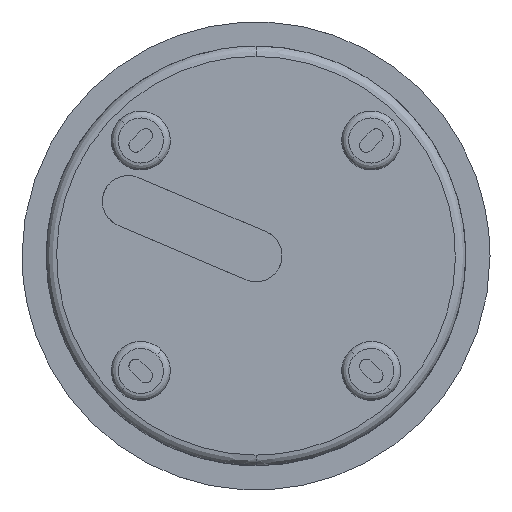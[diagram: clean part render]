
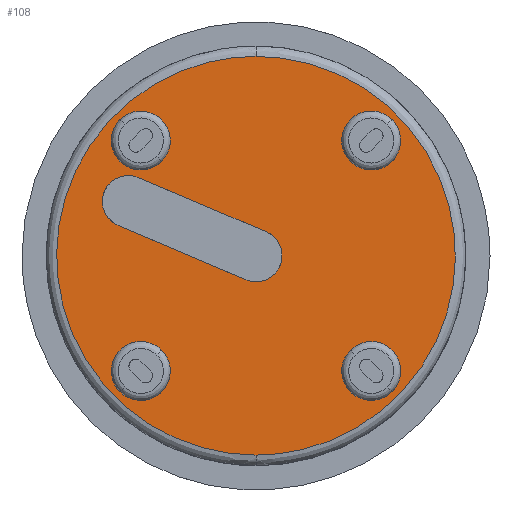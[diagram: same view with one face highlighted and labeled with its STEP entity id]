
A CAD part, top view. The second image highlights one B-rep face of the part: STEP entity #108.
In plain terms, the highlighted planar face has unit normal (0, 0, 1) as drawn and (0, 1, 0) by its records, which use the part's own axes.
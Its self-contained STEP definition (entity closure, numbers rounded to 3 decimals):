
#35=FACE_BOUND('',#484,.T.);
#36=FACE_BOUND('',#485,.T.);
#37=FACE_BOUND('',#486,.T.);
#38=FACE_BOUND('',#487,.T.);
#39=FACE_BOUND('',#488,.T.);
#108=ADVANCED_FACE('',(#293,#35,#36,#37,#38,#39),#2769,.T.);
#293=FACE_OUTER_BOUND('',#483,.T.);
#483=EDGE_LOOP('',(#964,#965));
#484=EDGE_LOOP('',(#966,#967));
#485=EDGE_LOOP('',(#968,#969));
#486=EDGE_LOOP('',(#970,#971));
#487=EDGE_LOOP('',(#972,#973));
#488=EDGE_LOOP('',(#974,#975,#976,#977));
#964=ORIENTED_EDGE('',*,*,#1714,.F.);
#965=ORIENTED_EDGE('',*,*,#1715,.F.);
#966=ORIENTED_EDGE('',*,*,#1723,.T.);
#967=ORIENTED_EDGE('',*,*,#1718,.T.);
#968=ORIENTED_EDGE('',*,*,#1781,.T.);
#969=ORIENTED_EDGE('',*,*,#1778,.T.);
#970=ORIENTED_EDGE('',*,*,#1763,.T.);
#971=ORIENTED_EDGE('',*,*,#1760,.T.);
#972=ORIENTED_EDGE('',*,*,#1745,.T.);
#973=ORIENTED_EDGE('',*,*,#1742,.T.);
#974=ORIENTED_EDGE('',*,*,#1792,.T.);
#975=ORIENTED_EDGE('',*,*,#1795,.T.);
#976=ORIENTED_EDGE('',*,*,#1798,.T.);
#977=ORIENTED_EDGE('',*,*,#1788,.T.);
#1714=EDGE_CURVE('',#2588,#2589,#2091,.T.);
#1715=EDGE_CURVE('',#2589,#2588,#2092,.T.);
#1718=EDGE_CURVE('',#2590,#2591,#2095,.T.);
#1723=EDGE_CURVE('',#2591,#2590,#2098,.T.);
#1742=EDGE_CURVE('',#2596,#2597,#2107,.T.);
#1745=EDGE_CURVE('',#2597,#2596,#2110,.T.);
#1760=EDGE_CURVE('',#2594,#2595,#2117,.T.);
#1763=EDGE_CURVE('',#2595,#2594,#2120,.T.);
#1778=EDGE_CURVE('',#2592,#2593,#2127,.T.);
#1781=EDGE_CURVE('',#2593,#2592,#2130,.T.);
#1788=EDGE_CURVE('',#2598,#2599,#2133,.T.);
#1792=EDGE_CURVE('',#2599,#2601,#2337,.T.);
#1795=EDGE_CURVE('',#2601,#2600,#2135,.T.);
#1798=EDGE_CURVE('',#2600,#2598,#2341,.T.);
#2091=(
BOUNDED_CURVE()
B_SPLINE_CURVE(2,(#9662,#9663,#9664,#9665,#9666),.UNSPECIFIED.,.F.,.F.)
B_SPLINE_CURVE_WITH_KNOTS((3,2,3),(0.,90.321,180.642),
 .UNSPECIFIED.)
CURVE()
GEOMETRIC_REPRESENTATION_ITEM()
RATIONAL_B_SPLINE_CURVE((1.,0.707,1.,0.707,1.))
REPRESENTATION_ITEM('')
);
#2092=(
BOUNDED_CURVE()
B_SPLINE_CURVE(2,(#9667,#9668,#9669,#9670,#9671),.UNSPECIFIED.,.F.,.F.)
B_SPLINE_CURVE_WITH_KNOTS((3,2,3),(-180.642,-90.321,
0.),.UNSPECIFIED.)
CURVE()
GEOMETRIC_REPRESENTATION_ITEM()
RATIONAL_B_SPLINE_CURVE((1.,0.707,1.,0.707,1.))
REPRESENTATION_ITEM('')
);
#2095=(
BOUNDED_CURVE()
B_SPLINE_CURVE(2,(#9680,#9681,#9682,#9683,#9684),.UNSPECIFIED.,.F.,.F.)
B_SPLINE_CURVE_WITH_KNOTS((3,2,3),(-20.628,-10.418,-0.208),
 .UNSPECIFIED.)
CURVE()
GEOMETRIC_REPRESENTATION_ITEM()
RATIONAL_B_SPLINE_CURVE((1.,0.707,1.,0.707,1.))
REPRESENTATION_ITEM('')
);
#2098=(
BOUNDED_CURVE()
B_SPLINE_CURVE(2,(#9697,#9698,#9699,#9700,#9701),.UNSPECIFIED.,.F.,.F.)
B_SPLINE_CURVE_WITH_KNOTS((3,2,3),(-20.628,-10.418,-0.208),
 .UNSPECIFIED.)
CURVE()
GEOMETRIC_REPRESENTATION_ITEM()
RATIONAL_B_SPLINE_CURVE((1.,0.707,1.,0.707,1.))
REPRESENTATION_ITEM('')
);
#2107=(
BOUNDED_CURVE()
B_SPLINE_CURVE(2,(#9760,#9761,#9762,#9763,#9764),.UNSPECIFIED.,.F.,.F.)
B_SPLINE_CURVE_WITH_KNOTS((3,2,3),(-20.628,-10.418,-0.208),
 .UNSPECIFIED.)
CURVE()
GEOMETRIC_REPRESENTATION_ITEM()
RATIONAL_B_SPLINE_CURVE((1.,0.707,1.,0.707,1.))
REPRESENTATION_ITEM('')
);
#2110=(
BOUNDED_CURVE()
B_SPLINE_CURVE(2,(#9773,#9774,#9775,#9776,#9777),.UNSPECIFIED.,.F.,.F.)
B_SPLINE_CURVE_WITH_KNOTS((3,2,3),(-20.628,-10.418,-0.208),
 .UNSPECIFIED.)
CURVE()
GEOMETRIC_REPRESENTATION_ITEM()
RATIONAL_B_SPLINE_CURVE((1.,0.707,1.,0.707,1.))
REPRESENTATION_ITEM('')
);
#2117=(
BOUNDED_CURVE()
B_SPLINE_CURVE(2,(#9822,#9823,#9824,#9825,#9826),.UNSPECIFIED.,.F.,.F.)
B_SPLINE_CURVE_WITH_KNOTS((3,2,3),(-20.628,-10.418,-0.208),
 .UNSPECIFIED.)
CURVE()
GEOMETRIC_REPRESENTATION_ITEM()
RATIONAL_B_SPLINE_CURVE((1.,0.707,1.,0.707,1.))
REPRESENTATION_ITEM('')
);
#2120=(
BOUNDED_CURVE()
B_SPLINE_CURVE(2,(#9835,#9836,#9837,#9838,#9839),.UNSPECIFIED.,.F.,.F.)
B_SPLINE_CURVE_WITH_KNOTS((3,2,3),(-20.628,-10.418,-0.208),
 .UNSPECIFIED.)
CURVE()
GEOMETRIC_REPRESENTATION_ITEM()
RATIONAL_B_SPLINE_CURVE((1.,0.707,1.,0.707,1.))
REPRESENTATION_ITEM('')
);
#2127=(
BOUNDED_CURVE()
B_SPLINE_CURVE(2,(#9884,#9885,#9886,#9887,#9888),.UNSPECIFIED.,.F.,.F.)
B_SPLINE_CURVE_WITH_KNOTS((3,2,3),(-20.628,-10.418,-0.208),
 .UNSPECIFIED.)
CURVE()
GEOMETRIC_REPRESENTATION_ITEM()
RATIONAL_B_SPLINE_CURVE((1.,0.707,1.,0.707,1.))
REPRESENTATION_ITEM('')
);
#2130=(
BOUNDED_CURVE()
B_SPLINE_CURVE(2,(#9897,#9898,#9899,#9900,#9901),.UNSPECIFIED.,.F.,.F.)
B_SPLINE_CURVE_WITH_KNOTS((3,2,3),(-20.628,-10.418,-0.208),
 .UNSPECIFIED.)
CURVE()
GEOMETRIC_REPRESENTATION_ITEM()
RATIONAL_B_SPLINE_CURVE((1.,0.707,1.,0.707,1.))
REPRESENTATION_ITEM('')
);
#2133=(
BOUNDED_CURVE()
B_SPLINE_CURVE(2,(#9920,#9921,#9922,#9923,#9924),.UNSPECIFIED.,.F.,.F.)
B_SPLINE_CURVE_WITH_KNOTS((3,2,3),(-23.562,-11.781,
0.),.UNSPECIFIED.)
CURVE()
GEOMETRIC_REPRESENTATION_ITEM()
RATIONAL_B_SPLINE_CURVE((1.,0.707,1.,0.707,1.))
REPRESENTATION_ITEM('')
);
#2135=(
BOUNDED_CURVE()
B_SPLINE_CURVE(2,(#9940,#9941,#9942,#9943,#9944),.UNSPECIFIED.,.F.,.F.)
B_SPLINE_CURVE_WITH_KNOTS((3,2,3),(-23.562,-11.781,
0.),.UNSPECIFIED.)
CURVE()
GEOMETRIC_REPRESENTATION_ITEM()
RATIONAL_B_SPLINE_CURVE((1.,0.707,1.,0.707,1.))
REPRESENTATION_ITEM('')
);
#2337=B_SPLINE_CURVE_WITH_KNOTS('',1,(#9934,#9935),.UNSPECIFIED.,.F.,.F.,
(2,2),(-40.,0.),.UNSPECIFIED.);
#2341=B_SPLINE_CURVE_WITH_KNOTS('',1,(#9952,#9953),.UNSPECIFIED.,.F.,.F.,
(2,2),(-40.,0.),.UNSPECIFIED.);
#2588=VERTEX_POINT('',#8598);
#2589=VERTEX_POINT('',#8599);
#2590=VERTEX_POINT('',#8600);
#2591=VERTEX_POINT('',#8601);
#2592=VERTEX_POINT('',#8602);
#2593=VERTEX_POINT('',#8603);
#2594=VERTEX_POINT('',#8604);
#2595=VERTEX_POINT('',#8605);
#2596=VERTEX_POINT('',#8606);
#2597=VERTEX_POINT('',#8607);
#2598=VERTEX_POINT('',#8608);
#2599=VERTEX_POINT('',#8609);
#2600=VERTEX_POINT('',#8610);
#2601=VERTEX_POINT('',#8611);
#2769=PLANE('',#3208);
#3208=AXIS2_PLACEMENT_3D('',#5075,#3267,$);
#3267=DIRECTION('',(0.,1.,0.));
#5075=CARTESIAN_POINT('',(69.023,0.,69.023));
#8598=CARTESIAN_POINT('',(0.,0.,-57.5));
#8599=CARTESIAN_POINT('',(0.,0.,57.5));
#8600=CARTESIAN_POINT('',(-27.224,0.,-27.224));
#8601=CARTESIAN_POINT('',(-39.244,0.,-39.244));
#8602=CARTESIAN_POINT('',(-27.224,0.,27.224));
#8603=CARTESIAN_POINT('',(-39.244,0.,39.244));
#8604=CARTESIAN_POINT('',(27.224,0.,27.224));
#8605=CARTESIAN_POINT('',(39.244,0.,39.244));
#8606=CARTESIAN_POINT('',(27.224,0.,-27.224));
#8607=CARTESIAN_POINT('',(39.244,0.,-39.244));
#8608=CARTESIAN_POINT('',(2.93,0.,-6.904));
#8609=CARTESIAN_POINT('',(-2.93,0.,6.904));
#8610=CARTESIAN_POINT('',(-33.89,0.,-22.533));
#8611=CARTESIAN_POINT('',(-39.751,0.,-8.725));
#9662=CARTESIAN_POINT('',(0.,0.,-57.5));
#9663=CARTESIAN_POINT('',(57.5,0.,-57.5));
#9664=CARTESIAN_POINT('',(57.5,0.,0.));
#9665=CARTESIAN_POINT('',(57.5,0.,57.5));
#9666=CARTESIAN_POINT('',(0.,0.,57.5));
#9667=CARTESIAN_POINT('',(0.,0.,57.5));
#9668=CARTESIAN_POINT('',(-57.5,0.,57.5));
#9669=CARTESIAN_POINT('',(-57.5,0.,0.));
#9670=CARTESIAN_POINT('',(-57.5,0.,-57.5));
#9671=CARTESIAN_POINT('',(0.,0.,-57.5));
#9680=CARTESIAN_POINT('',(-27.224,0.,-27.224));
#9681=CARTESIAN_POINT('',(-33.234,0.,-21.213));
#9682=CARTESIAN_POINT('',(-39.244,0.,-27.224));
#9683=CARTESIAN_POINT('',(-45.255,0.,-33.234));
#9684=CARTESIAN_POINT('',(-39.244,0.,-39.244));
#9697=CARTESIAN_POINT('',(-39.244,0.,-39.244));
#9698=CARTESIAN_POINT('',(-33.234,0.,-45.255));
#9699=CARTESIAN_POINT('',(-27.224,0.,-39.244));
#9700=CARTESIAN_POINT('',(-21.213,0.,-33.234));
#9701=CARTESIAN_POINT('',(-27.224,0.,-27.224));
#9760=CARTESIAN_POINT('',(27.224,0.,-27.224));
#9761=CARTESIAN_POINT('',(21.213,0.,-33.234));
#9762=CARTESIAN_POINT('',(27.224,0.,-39.244));
#9763=CARTESIAN_POINT('',(33.234,0.,-45.255));
#9764=CARTESIAN_POINT('',(39.244,0.,-39.244));
#9773=CARTESIAN_POINT('',(39.244,0.,-39.244));
#9774=CARTESIAN_POINT('',(45.255,0.,-33.234));
#9775=CARTESIAN_POINT('',(39.244,0.,-27.224));
#9776=CARTESIAN_POINT('',(33.234,0.,-21.213));
#9777=CARTESIAN_POINT('',(27.224,0.,-27.224));
#9822=CARTESIAN_POINT('',(27.224,0.,27.224));
#9823=CARTESIAN_POINT('',(33.234,0.,21.213));
#9824=CARTESIAN_POINT('',(39.244,0.,27.224));
#9825=CARTESIAN_POINT('',(45.255,0.,33.234));
#9826=CARTESIAN_POINT('',(39.244,0.,39.244));
#9835=CARTESIAN_POINT('',(39.244,0.,39.244));
#9836=CARTESIAN_POINT('',(33.234,0.,45.255));
#9837=CARTESIAN_POINT('',(27.224,0.,39.244));
#9838=CARTESIAN_POINT('',(21.213,0.,33.234));
#9839=CARTESIAN_POINT('',(27.224,0.,27.224));
#9884=CARTESIAN_POINT('',(-27.224,0.,27.224));
#9885=CARTESIAN_POINT('',(-21.213,0.,33.234));
#9886=CARTESIAN_POINT('',(-27.224,0.,39.244));
#9887=CARTESIAN_POINT('',(-33.234,0.,45.255));
#9888=CARTESIAN_POINT('',(-39.244,0.,39.244));
#9897=CARTESIAN_POINT('',(-39.244,0.,39.244));
#9898=CARTESIAN_POINT('',(-45.255,0.,33.234));
#9899=CARTESIAN_POINT('',(-39.244,0.,27.224));
#9900=CARTESIAN_POINT('',(-33.234,0.,21.213));
#9901=CARTESIAN_POINT('',(-27.224,0.,27.224));
#9920=CARTESIAN_POINT('',(2.93,0.,-6.904));
#9921=CARTESIAN_POINT('',(9.834,0.,-3.973));
#9922=CARTESIAN_POINT('',(6.904,0.,2.93));
#9923=CARTESIAN_POINT('',(3.973,0.,9.834));
#9924=CARTESIAN_POINT('',(-2.93,0.,6.904));
#9934=CARTESIAN_POINT('',(-2.93,0.,6.904));
#9935=CARTESIAN_POINT('',(-39.751,0.,-8.725));
#9940=CARTESIAN_POINT('',(-39.751,0.,-8.725));
#9941=CARTESIAN_POINT('',(-46.654,0.,-11.656));
#9942=CARTESIAN_POINT('',(-43.724,0.,-18.56));
#9943=CARTESIAN_POINT('',(-40.793,0.,-25.464));
#9944=CARTESIAN_POINT('',(-33.89,0.,-22.533));
#9952=CARTESIAN_POINT('',(-33.89,0.,-22.533));
#9953=CARTESIAN_POINT('',(2.93,0.,-6.904));
